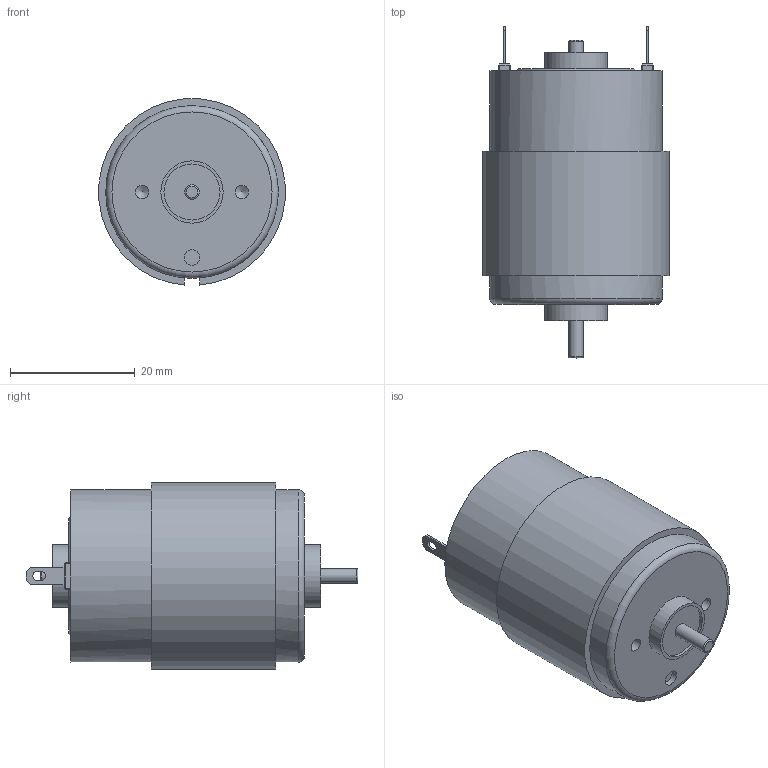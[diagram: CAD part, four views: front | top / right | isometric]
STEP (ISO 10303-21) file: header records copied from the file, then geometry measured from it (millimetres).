
FILE_DESCRIPTION(/* description */ (''),/* implementation_level */ '2;1');
FILE_NAME(/* name */ 'TP-3038#.stp',/* time_stamp */ '2024-06-07T13:24:46+09:00',/* author */ ('user'),/* organization */ (''),/* preprocessor_version */ 'ST-DEVELOPER v20',/* originating_system */ 'Autodesk Inventor 2024',/* authorisation */ '');
FILE_SCHEMA (('AUTOMOTIVE_DESIGN { 1 0 10303 214 3 1 1 }'));
Length unit declared in the file: millimetre
Products named in the file (1): RS-385PH(TP-3038)
Bounding box: 29.89 x 53.3 x 29.89 mm (x, y, z)
Volume: 25005.1 mm3; surface area: 5317.1 mm2
Topology: 1 solids, 1 shells, 114 faces, 244 edges, 154 vertices
Faces by surface type: plane 76, cylinder 32, torus 4, cone 2
Full cylindrical faces by diameter (mm): 1.5 x1, 2 x6, 2.113 x2, 2.3 x2, 2.5 x1, 9 x2, 10 x2, 19 x1, 26.7 x1, 27.7 x1
Entity records: 3193 total; most frequent: DIRECTION 552, CARTESIAN_POINT 511, ORIENTED_EDGE 484, EDGE_CURVE 242, AXIS2_PLACEMENT_3D 195, LINE 162, VECTOR 162, VERTEX_POINT 154
